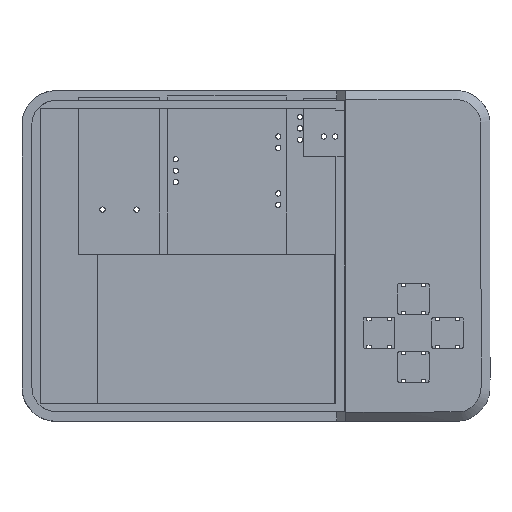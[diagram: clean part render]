
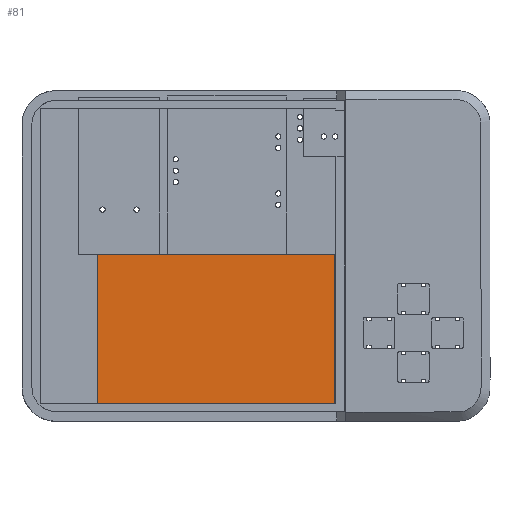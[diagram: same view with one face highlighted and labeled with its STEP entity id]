
A CAD part, top view. The second image highlights one B-rep face of the part: STEP entity #81.
In plain terms, the highlighted planar face has unit normal (0, 0, 1).
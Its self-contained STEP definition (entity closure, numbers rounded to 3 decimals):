
#81=ADVANCED_FACE($,(#579),#6690,.T.);
#579=FACE_OUTER_BOUND($,#1093,.T.);
#1093=EDGE_LOOP($,(#1907,#1908,#1909,#1910));
#1907=ORIENTED_EDGE($,*,*,#4549,.T.);
#1908=ORIENTED_EDGE($,*,*,#4548,.T.);
#1909=ORIENTED_EDGE($,*,*,#4550,.T.);
#1910=ORIENTED_EDGE($,*,*,#4551,.T.);
#4548=EDGE_CURVE($,#5879,#5878,#7311,.T.);
#4549=EDGE_CURVE($,#5880,#5879,#7312,.T.);
#4550=EDGE_CURVE($,#5878,#5881,#7313,.T.);
#4551=EDGE_CURVE($,#5881,#5880,#7314,.T.);
#5878=VERTEX_POINT($,#48233);
#5879=VERTEX_POINT($,#48234);
#5880=VERTEX_POINT($,#48235);
#5881=VERTEX_POINT($,#48236);
#6690=PLANE($,#8432);
#7311=B_SPLINE_CURVE_WITH_KNOTS($,1,(#14719,#14720),.UNSPECIFIED.,.F.,.F.,
(2,2),(34.,34.4),.UNSPECIFIED.);
#7312=B_SPLINE_CURVE_WITH_KNOTS($,1,(#14721,#14722),.UNSPECIFIED.,.F.,.F.,
(2,2),(0.,34.),.UNSPECIFIED.);
#7313=B_SPLINE_CURVE_WITH_KNOTS($,1,(#14723,#14724),.UNSPECIFIED.,.F.,.F.,
(2,2),(34.4,34.8),.UNSPECIFIED.);
#7314=B_SPLINE_CURVE_WITH_KNOTS($,1,(#14725,#14726),.UNSPECIFIED.,.F.,.F.,
(2,2),(34.8,35.2),.UNSPECIFIED.);
#8432=AXIS2_PLACEMENT_3D($,#32151,#8740,$);
#8740=DIRECTION($,(0.,0.,1.));
#14719=CARTESIAN_POINT($,(69.6,37.244,1.27));
#14720=CARTESIAN_POINT($,(16.8,37.244,1.27));
#14721=CARTESIAN_POINT($,(69.6,2.444,1.27));
#14722=CARTESIAN_POINT($,(69.6,37.244,1.27));
#14723=CARTESIAN_POINT($,(16.8,37.244,1.27));
#14724=CARTESIAN_POINT($,(16.8,2.444,1.27));
#14725=CARTESIAN_POINT($,(16.8,2.444,1.27));
#14726=CARTESIAN_POINT($,(69.6,2.444,1.27));
#32151=CARTESIAN_POINT($,(16.8,2.444,1.27));
#48233=CARTESIAN_POINT($,(16.8,37.244,1.27));
#48234=CARTESIAN_POINT($,(69.6,37.244,1.27));
#48235=CARTESIAN_POINT($,(69.6,2.444,1.27));
#48236=CARTESIAN_POINT($,(16.8,2.444,1.27));
